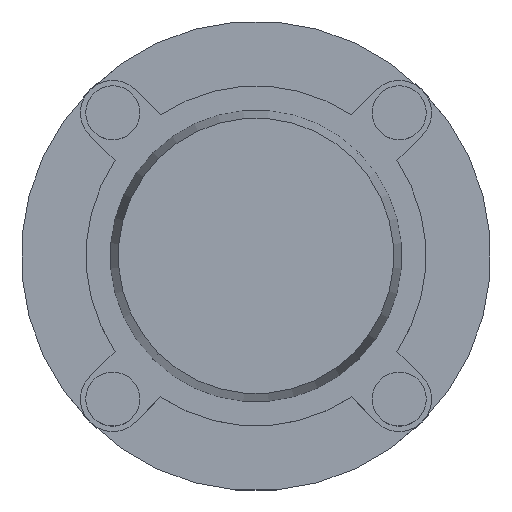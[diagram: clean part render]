
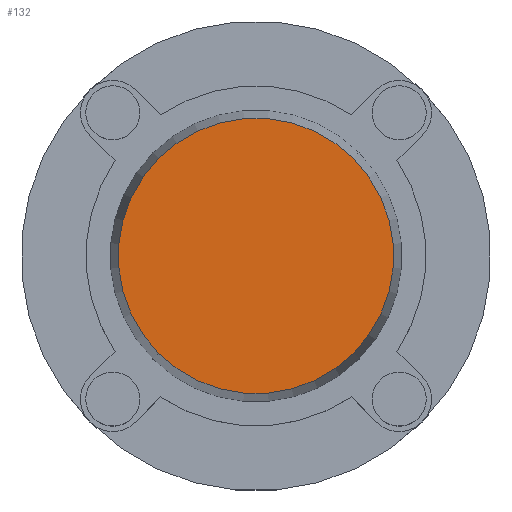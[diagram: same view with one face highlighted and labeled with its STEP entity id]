
A CAD part, top view. The second image highlights one B-rep face of the part: STEP entity #132.
In plain terms, the highlighted planar face has unit normal (0, 0, 1) as drawn and (1, 0, 0) by its records, which use the part's own axes.
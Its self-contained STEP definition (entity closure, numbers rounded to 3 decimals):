
#132=ADVANCED_FACE('',(#171),#732,.T.);
#171=FACE_OUTER_BOUND('',#215,.T.);
#215=EDGE_LOOP('',(#319,#320));
#319=ORIENTED_EDGE('',*,*,#460,.F.);
#320=ORIENTED_EDGE('',*,*,#463,.F.);
#460=EDGE_CURVE('',#690,#692,#525,.T.);
#463=EDGE_CURVE('',#692,#690,#527,.T.);
#525=TRIMMED_CURVE($,#571,(#1351),(#1352),.T.,.CARTESIAN.);
#527=TRIMMED_CURVE($,#573,(#1359),(#1360),.T.,.CARTESIAN.);
#571=CIRCLE('',#972,25.501);
#573=CIRCLE('',#974,25.501);
#690=VERTEX_POINT('',#1245);
#692=VERTEX_POINT('',#1247);
#732=PLANE('',#933);
#933=AXIS2_PLACEMENT_3D('',#1167,#1022,$);
#972=AXIS2_PLACEMENT_3D($,#1350,#1074,#1075);
#974=AXIS2_PLACEMENT_3D($,#1358,#1078,#1079);
#1022=DIRECTION('',(1.,0.,0.));
#1074=DIRECTION('',(-1.,0.,0.));
#1075=DIRECTION('',(0.,0.,1.));
#1078=DIRECTION('',(-1.,0.,0.));
#1079=DIRECTION('',(0.,0.,-1.));
#1167=CARTESIAN_POINT('',(13.5,-30.661,-30.661));
#1245=CARTESIAN_POINT('',(13.5,0.,25.501));
#1247=CARTESIAN_POINT('',(13.5,0.,-25.501));
#1350=CARTESIAN_POINT('',(13.5,0.,0.));
#1351=CARTESIAN_POINT('',(13.5,0.,25.501));
#1352=CARTESIAN_POINT('',(13.5,0.,-25.501));
#1358=CARTESIAN_POINT('',(13.5,0.,0.));
#1359=CARTESIAN_POINT('',(13.5,0.,-25.501));
#1360=CARTESIAN_POINT('',(13.5,0.,25.501));
